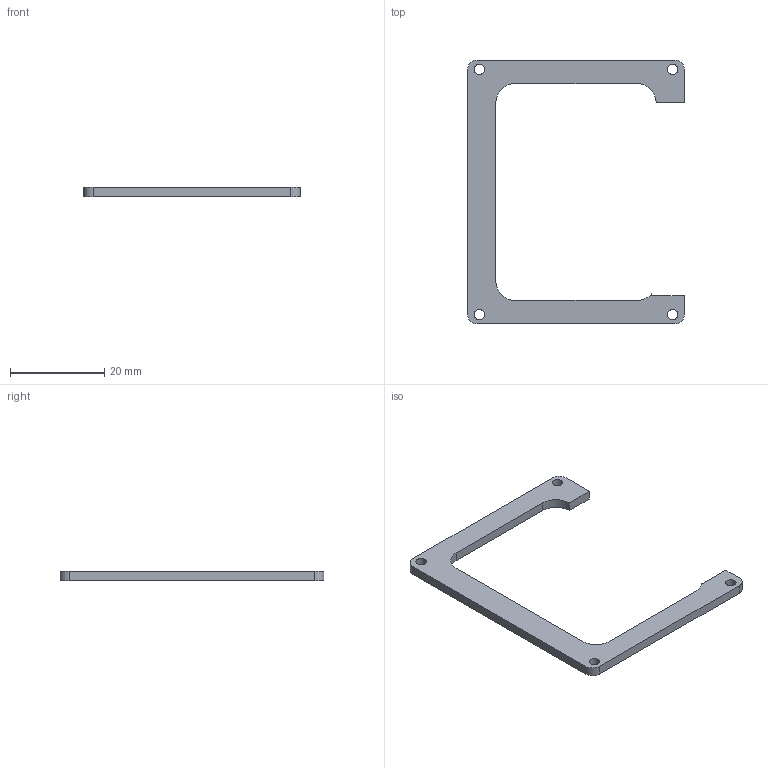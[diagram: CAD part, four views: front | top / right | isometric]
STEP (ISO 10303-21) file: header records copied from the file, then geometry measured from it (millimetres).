
FILE_DESCRIPTION(('Open CASCADE Model'),'2;1');
FILE_NAME('Open CASCADE Shape Model','2026-11-09T21:30:06',('Author'),( 'Open CASCADE'),'Open CASCADE STEP processor 8.0','Open CASCADE 8.0' ,'Unknown');
FILE_SCHEMA(('AUTOMOTIVE_DESIGN { 1 0 10303 214 1 1 1 1 }'));
Length unit declared in the file: millimetre
Products named in the file (1): Open CASCADE STEP translator 8.0 4
Bounding box: 46 x 56 x 2 mm (x, y, z)
Volume: 1519.8 mm3; surface area: 2145.4 mm2
Topology: 1 solids, 1 shells, 25 faces, 69 edges, 46 vertices
Faces by surface type: plane 13, cylinder 12
Full cylindrical faces by diameter (mm): 2.2 x4
Entity records: 1724 total; most frequent: CARTESIAN_POINT 357, DIRECTION 245, ORIENTED_EDGE 138, PCURVE 138, DEFINITIONAL_REPRESENTATION 138, LINE 129, VECTOR 129, EDGE_CURVE 69
